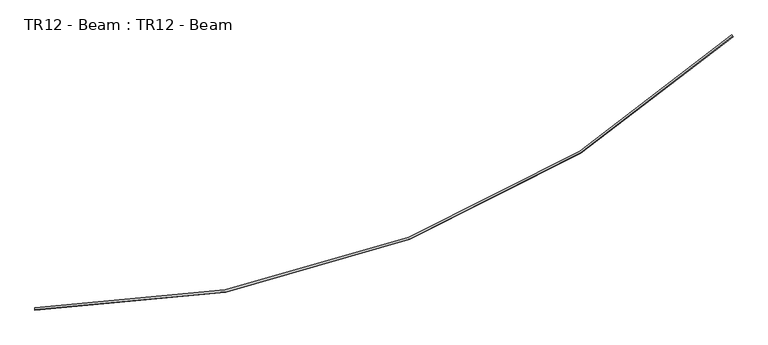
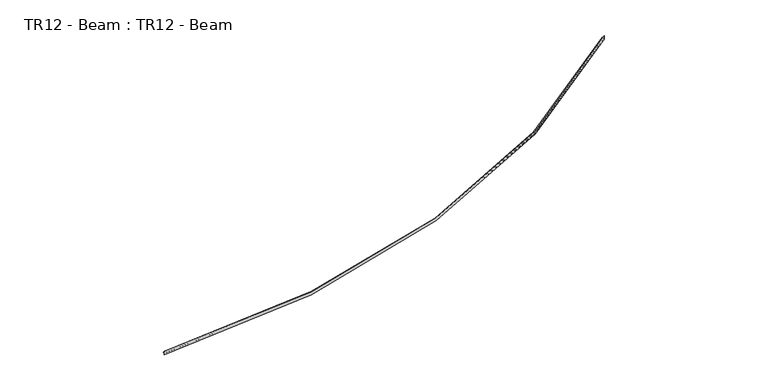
"""IFC4 building model written with IfcOpenShell, lengths in millimetres: beam geometry, TR12 - Beam : TR12 - Beam."""

from ifc_helpers import new_model, si_unit, frame, origin, place, context, project, spatial, polyline, circle_curve, source, transform, mapped, element, save
from ifc_brep_helpers import plane_surface, cylinder_surface, revolved_surface, advanced_brep


def tr12_beam_tr12_beam_397432e7(model_context):
    return source(origin(), model_context, "Body", "AdvancedBrep", [
        advanced_brep(
        [(4857.052628, 1886.1085199, 18.0), (4857.052628, 1886.1085199, -12.0), (4856.3735403, 1886.842577, -12.0), (4856.3735403, 1886.842577, 0.0), (4846.1872244, 1897.8534339, 0.0), (4846.1872244, 1897.8534339, 1.0), (4856.3735403, 1886.842577, 1.0), (4856.3735403, 1886.842577, 18.0), (0.0, -16.0, 18.0), (0.0, -15.0, 18.0), (0.0, -15.0, 1.0), (0.0, 0.0, 1.0), (0.0, 0.0, 0.0), (0.0, -15.0, 0.0), (0.0, -15.0, -12.0), (0.0, -16.0, -12.0)],
        [
            (0, 1),
            (1, 2),
            (2, 3),
            (3, 4),
            (4, 5),
            (5, 6),
            (6, 7),
            (7, 0),
            (8, 9),
            (9, 10),
            (10, 11),
            (11, 12),
            (12, 13),
            (13, 14),
            (14, 15),
            (15, 8),
            (0, 8, circle_curve(frame((0.0, 7136.3198513, 18.0), z_axis=(0.0, 0.0, -1.0), x_axis=(-0.36012959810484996, 0.9329022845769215, 0.0)), 7152.3198513)),
            (15, 1, circle_curve(frame((0.0, 7136.3198513, -12.0), z_axis=(0.0, 0.0, 1.0), x_axis=(-0.36012959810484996, 0.9329022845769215, 0.0)), 7152.3198513)),
            (14, 2, circle_curve(frame((0.0, 7136.3198513, -12.0), z_axis=(0.0, 0.0, 1.0), x_axis=(-0.36012959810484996, 0.9329022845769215, 0.0)), 7151.3198513)),
            (13, 3, circle_curve(frame((0.0, 7136.3198513, 0.0), z_axis=(0.0, 0.0, 1.0), x_axis=(-0.36012959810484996, 0.9329022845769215, 0.0)), 7151.3198513)),
            (12, 4, circle_curve(frame((0.0, 7136.3198513, 0.0), z_axis=(0.0, 0.0, 1.0), x_axis=(-0.36012959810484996, 0.9329022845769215, 0.0)), 7136.3198513)),
            (11, 5, circle_curve(frame((0.0, 7136.3198513, 1.0), z_axis=(0.0, 0.0, 1.0), x_axis=(-0.36012959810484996, 0.9329022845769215, 0.0)), 7136.3198513)),
            (10, 6, circle_curve(frame((0.0, 7136.3198513, 1.0), z_axis=(0.0, 0.0, 1.0), x_axis=(-0.36012959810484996, 0.9329022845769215, 0.0)), 7151.3198513)),
            (9, 7, circle_curve(frame((0.0, 7136.3198513, 18.0), z_axis=(0.0, 0.0, 1.0), x_axis=(-0.36012959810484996, 0.9329022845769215, 0.0)), 7151.3198513)),
        ],
        [
            plane_surface(frame((4857.052628, 1886.1085199, 0.0), z_axis=(0.7340571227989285, 0.6790877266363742, 0.0), x_axis=(0.0, 0.0, -1.0))),
            plane_surface(frame((0.0, -16.0, 0.0), z_axis=(-1.0, 0.0, 0.0), x_axis=(0.0, 0.0, 1.0))),
            cylinder_surface(frame((0.0, 7136.3198513, 0.0), z_axis=(0.0, 0.0, 1.0000000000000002), x_axis=(-0.36012959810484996, 0.9329022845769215, 0.0)), 7152.3198513),
            plane_surface(frame((0.0, 7136.3198513, -12.0), z_axis=(0.0, 0.0, -1.0000000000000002), x_axis=(-0.36012959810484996, 0.9329022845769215, 0.0))),
            revolved_surface(polyline([(-2575.401943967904, 13807.802478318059, 0.0), (-2575.401943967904, 13807.802478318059, -12.000000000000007)]), (0.0, 7136.3198513, 0.0), (0.0, 0.0, 1.0000000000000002)),
            plane_surface(frame((0.0, 7136.3198513, 0.0), z_axis=(0.0, 0.0, -1.0000000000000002), x_axis=(-0.36012959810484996, 0.9329022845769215, 0.0))),
            revolved_surface(polyline([(-2569.9999999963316, 13793.808944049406, 1.0000000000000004), (-2569.9999999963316, 13793.808944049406, 0.0)]), (0.0, 7136.3198513, 0.0), (0.0, 0.0, 1.0000000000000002)),
            plane_surface(frame((0.0, 7136.3198513, 1.0), z_axis=(0.0, 0.0, 1.0000000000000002), x_axis=(-0.36012959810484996, 0.9329022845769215, 0.0))),
            revolved_surface(polyline([(-2575.401943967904, 13807.802478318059, 18.000000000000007), (-2575.401943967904, 13807.802478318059, 1.0000000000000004)]), (0.0, 7136.3198513, 0.0), (0.0, 0.0, 1.0000000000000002)),
            plane_surface(frame((0.0, 7136.3198513, 18.0), z_axis=(0.0, 0.0, 1.0000000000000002), x_axis=(-0.36012959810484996, 0.9329022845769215, 0.0))),
        ],
        [
            (0, [[1, 2, 3, 4, 5, 6, 7, 8]]),
            (1, [[9, 10, 11, 12, 13, 14, 15, 16]]),
            (2, [[-1, 17, -16, 18]]),
            (3, [[-2, -18, -15, 19]]),
            (4, [[-3, -19, -14, 20]]),
            (5, [[-4, -20, -13, 21]]),
            (6, [[-5, -21, -12, 22]]),
            (7, [[-6, -22, -11, 23]]),
            (8, [[-7, -23, -10, 24]]),
            (9, [[-8, -24, -9, -17]]),
        ],
    ),
    ])


if __name__ == "__main__":
    model = new_model("IFC4")
    model_context = context("Model", 3, world=origin())
    ifc_project = project(units=[si_unit("LENGTHUNIT", "METRE", prefix="MILLI")], contexts=[model_context])
    site = spatial("IfcSite", under=ifc_project)
    building = spatial("IfcBuilding", under=site)
    placement = place(None, origin())
    tr12_beam_tr12_beam_shape = tr12_beam_tr12_beam_397432e7(model_context)
    element("IfcBeam", 1, ObjectType="TR12 - Beam : TR12 - Beam", at=placement, inside=building, context=model_context, shape_type="MappedRepresentation", body=[
        mapped(tr12_beam_tr12_beam_shape, transform((0.0, 0.0, 0.0), x_axis=(1.0, 0.0, 0.0), y_axis=(0.0, 1.0, 0.0), z_axis=(0.0, 0.0, 1.0))),
    ])
    save(model, "model.ifc")
